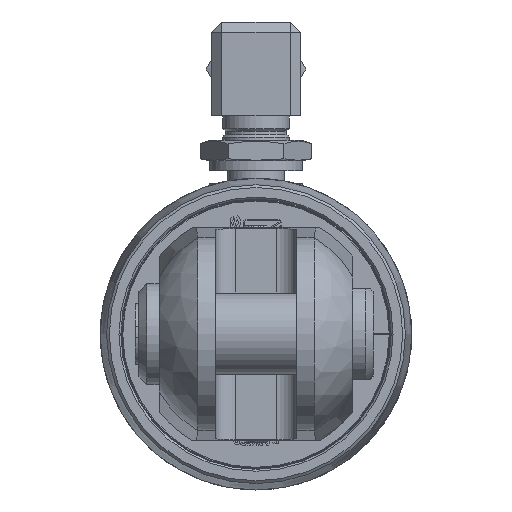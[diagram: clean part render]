
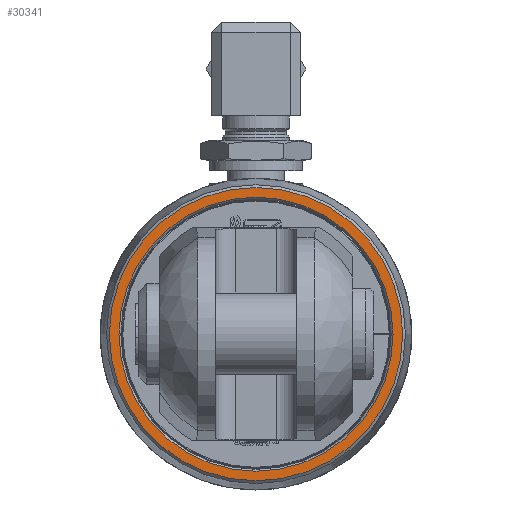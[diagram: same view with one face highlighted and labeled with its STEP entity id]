
A CAD part, left-side view. The second image highlights one B-rep face of the part: STEP entity #30341.
In plain terms, the highlighted planar face has unit normal (-1, 0, 0).
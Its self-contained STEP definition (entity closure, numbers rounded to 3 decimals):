
#386=FACE_BOUND('',#5551,.T.);
#3739=FACE_OUTER_BOUND('',#5550,.T.);
#5550=EDGE_LOOP('',(#26010));
#5551=EDGE_LOOP('',(#26011));
#11150=CIRCLE('',#31601,28.888);
#11152=CIRCLE('',#31605,27.);
#13868=VERTEX_POINT('',#55091);
#13870=VERTEX_POINT('',#55097);
#17944=EDGE_CURVE('',#13868,#13868,#11150,.T.);
#17946=EDGE_CURVE('',#13870,#13870,#11152,.T.);
#26010=ORIENTED_EDGE('',*,*,#17944,.F.);
#26011=ORIENTED_EDGE('',*,*,#17946,.F.);
#27185=PLANE('',#31604);
#30341=ADVANCED_FACE('',(#3739,#386),#27185,.F.);
#31601=AXIS2_PLACEMENT_3D('',#55092,#36639,#36640);
#31604=AXIS2_PLACEMENT_3D('',#55096,#36645,#36646);
#31605=AXIS2_PLACEMENT_3D('',#55098,#36647,#36648);
#36639=DIRECTION('center_axis',(1.,0.,0.));
#36640=DIRECTION('ref_axis',(0.,-1.,0.));
#36645=DIRECTION('center_axis',(1.,0.,0.));
#36646=DIRECTION('ref_axis',(0.,0.,-1.));
#36647=DIRECTION('center_axis',(-1.,0.,0.));
#36648=DIRECTION('ref_axis',(0.,-1.,0.));
#55091=CARTESIAN_POINT('',(-487.,28.888,0.));
#55092=CARTESIAN_POINT('Origin',(-487.,0.,0.));
#55096=CARTESIAN_POINT('Origin',(-487.,0.,0.));
#55097=CARTESIAN_POINT('',(-487.,27.,0.));
#55098=CARTESIAN_POINT('Origin',(-487.,0.,0.));
